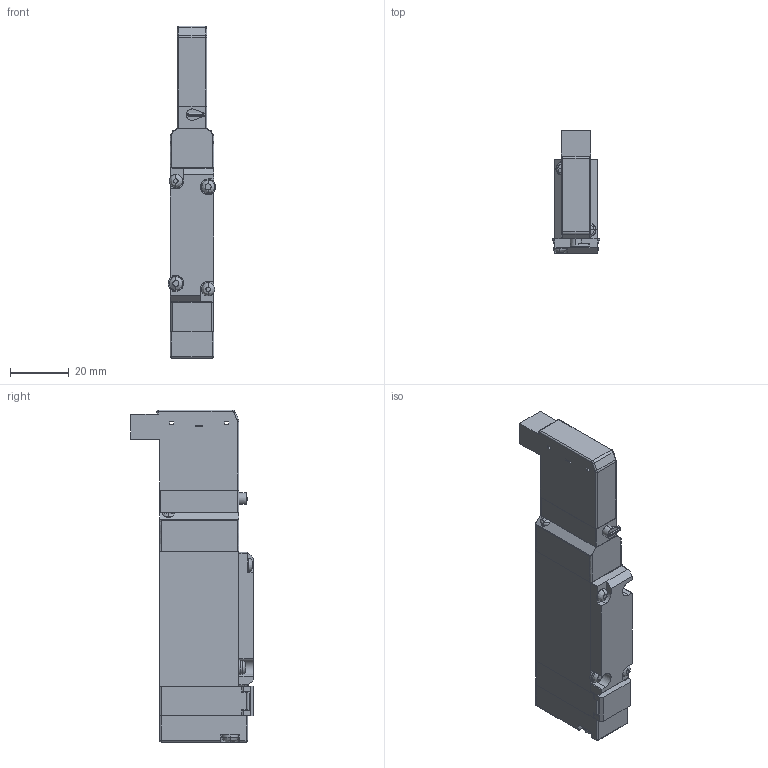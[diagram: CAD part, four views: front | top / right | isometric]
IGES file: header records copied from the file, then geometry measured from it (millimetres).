
Start section: ------------------------------------------------------------------------
Global section: file name: D:\ICADMX\tmp\trans3d_spg\CVICAD02.7120.F15T1-R-A1_16900.igs; native system: spGate; preprocessor: ver12.6.6; author: Unknown; organization: Unknown; date: 210712.184923; units: millimetre
Bounding box: 16.2 x 42 x 113.5 mm (x, y, z)
Volume: 45410.2 mm3; surface area: 17372.9 mm2
Topology: 7 solids, 7 shells, 328 faces, 850 edges, 537 vertices
Faces by surface type: bspline 328
